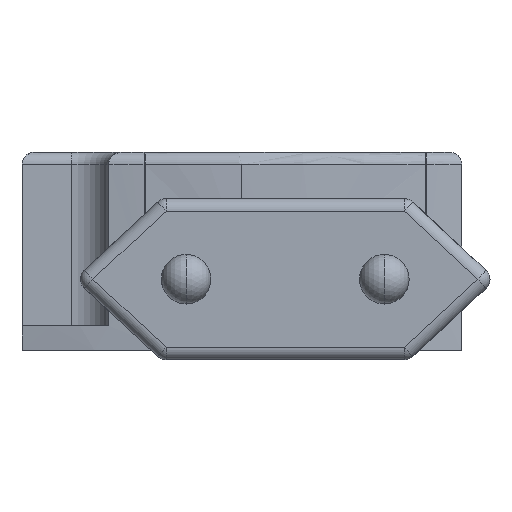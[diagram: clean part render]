
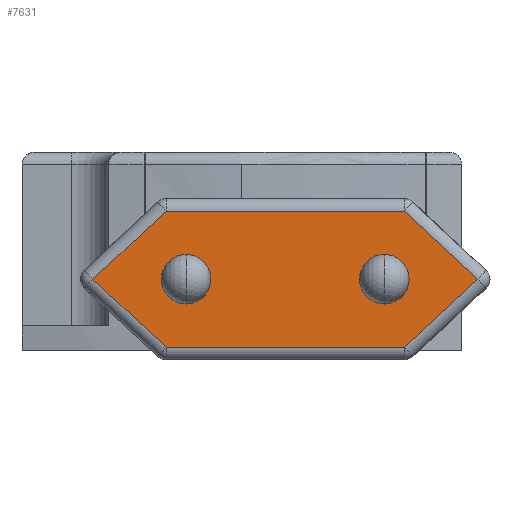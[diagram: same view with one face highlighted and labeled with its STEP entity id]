
A CAD part, left-side view. The second image highlights one B-rep face of the part: STEP entity #7631.
In plain terms, the highlighted planar face has unit normal (-1, 0, 0) as drawn and (0, 0, 1) by its records, which use the part's own axes.
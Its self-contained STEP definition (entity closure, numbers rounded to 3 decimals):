
#653 = CARTESIAN_POINT ( 'NONE',  ( 5.5, 10., 68.5 ) ) ;
#671 = VERTEX_POINT ( 'NONE', #3274 ) ;
#982 = DIRECTION ( 'NONE',  ( 0., -1., 0. ) ) ;
#991 = CARTESIAN_POINT ( 'NONE',  ( 0., -8., 68.5 ) ) ;
#1154 = DIRECTION ( 'NONE',  ( -1., 0., 0. ) ) ;
#1273 = VECTOR ( 'NONE', #13786, 1000. ) ;
#1400 = ORIENTED_EDGE ( 'NONE', *, *, #2611, .T. ) ;
#1629 = CIRCLE ( 'NONE', #9842, 1.9 ) ;
#1753 = VERTEX_POINT ( 'NONE', #10649 ) ;
#2042 = CARTESIAN_POINT ( 'NONE',  ( -5.5, -9.607, 68.5 ) ) ;
#2137 = ORIENTED_EDGE ( 'NONE', *, *, #16054, .T. ) ;
#2327 = EDGE_LOOP ( 'NONE', ( #6097, #2137, #13941, #1400, #15668, #7497 ) ) ;
#2611 = EDGE_CURVE ( 'NONE', #671, #3371, #5809, .T. ) ;
#2612 = EDGE_CURVE ( 'NONE', #4024, #671, #9753, .T. ) ;
#3274 = CARTESIAN_POINT ( 'NONE',  ( 0., 15.53, 68.5 ) ) ;
#3371 = VERTEX_POINT ( 'NONE', #9859 ) ;
#3746 = FACE_BOUND ( 'NONE', #13010, .T. ) ;
#4024 = VERTEX_POINT ( 'NONE', #11711 ) ;
#4367 = DIRECTION ( 'NONE',  ( 0., 1., 0. ) ) ;
#4478 = DIRECTION ( 'NONE',  ( 0.68, 0.733, 0. ) ) ;
#4573 = CARTESIAN_POINT ( 'NONE',  ( 0.733, -16.32, 68.5 ) ) ;
#5231 = CARTESIAN_POINT ( 'NONE',  ( 0., -15.53, 68.5 ) ) ;
#5809 = LINE ( 'NONE', #9834, #16793 ) ;
#5839 = VERTEX_POINT ( 'NONE', #5231 ) ;
#5888 = LINE ( 'NONE', #653, #15801 ) ;
#6026 = EDGE_CURVE ( 'NONE', #6589, #6448, #13909, .T. ) ;
#6097 = ORIENTED_EDGE ( 'NONE', *, *, #11942, .T. ) ;
#6125 = FACE_OUTER_BOUND ( 'NONE', #2327, .T. ) ;
#6448 = VERTEX_POINT ( 'NONE', #7584 ) ;
#6539 = AXIS2_PLACEMENT_3D ( 'NONE', #8385, #14706, #13592 ) ;
#6589 = VERTEX_POINT ( 'NONE', #16279 ) ;
#6793 = EDGE_CURVE ( 'NONE', #13798, #1753, #1629, .T. ) ;
#6797 = ORIENTED_EDGE ( 'NONE', *, *, #6026, .F. ) ;
#7010 = CARTESIAN_POINT ( 'NONE',  ( -0.733, 16.32, 68.5 ) ) ;
#7335 = FACE_BOUND ( 'NONE', #15172, .T. ) ;
#7497 = ORIENTED_EDGE ( 'NONE', *, *, #12312, .T. ) ;
#7543 = DIRECTION ( 'NONE',  ( 0., 0., 1. ) ) ;
#7558 = AXIS2_PLACEMENT_3D ( 'NONE', #991, #12871, #1154 ) ;
#7569 = CARTESIAN_POINT ( 'NONE',  ( 0., 8., 68.5 ) ) ;
#7584 = CARTESIAN_POINT ( 'NONE',  ( 1.9, 8., 68.5 ) ) ;
#7631 = ADVANCED_FACE ( 'NONE', ( #6125, #3746, #7335 ), #11347, .T. ) ;
#7650 = EDGE_CURVE ( 'NONE', #1753, #13798, #9198, .T. ) ;
#7968 = CARTESIAN_POINT ( 'NONE',  ( 1.9, -8., 68.5 ) ) ;
#8385 = CARTESIAN_POINT ( 'NONE',  ( 0., 8., 68.5 ) ) ;
#8951 = DIRECTION ( 'NONE',  ( 0., 0., 1. ) ) ;
#9198 = CIRCLE ( 'NONE', #7558, 1.9 ) ;
#9683 = LINE ( 'NONE', #10893, #14908 ) ;
#9753 = LINE ( 'NONE', #7010, #11867 ) ;
#9834 = CARTESIAN_POINT ( 'NONE',  ( -5.767, 9.32, 68.5 ) ) ;
#9842 = AXIS2_PLACEMENT_3D ( 'NONE', #15499, #7543, #10276 ) ;
#9859 = CARTESIAN_POINT ( 'NONE',  ( -5.5, 9.607, 68.5 ) ) ;
#9865 = LINE ( 'NONE', #4573, #1273 ) ;
#9970 = CARTESIAN_POINT ( 'NONE',  ( -5.5, -10., 68.5 ) ) ;
#10049 = AXIS2_PLACEMENT_3D ( 'NONE', #7569, #12681, #10207 ) ;
#10067 = DIRECTION ( 'NONE',  ( 1., 0., 0. ) ) ;
#10139 = EDGE_CURVE ( 'NONE', #3371, #11300, #10311, .T. ) ;
#10207 = DIRECTION ( 'NONE',  ( 1., 0., 0. ) ) ;
#10276 = DIRECTION ( 'NONE',  ( -1., 0., 0. ) ) ;
#10311 = LINE ( 'NONE', #9970, #15953 ) ;
#10649 = CARTESIAN_POINT ( 'NONE',  ( -1.9, -8., 68.5 ) ) ;
#10893 = CARTESIAN_POINT ( 'NONE',  ( 5.767, -9.32, 68.5 ) ) ;
#11300 = VERTEX_POINT ( 'NONE', #2042 ) ;
#11347 = PLANE ( 'NONE',  #15465 ) ;
#11535 = ORIENTED_EDGE ( 'NONE', *, *, #15701, .F. ) ;
#11711 = CARTESIAN_POINT ( 'NONE',  ( 5.5, 9.607, 68.5 ) ) ;
#11867 = VECTOR ( 'NONE', #16339, 1000. ) ;
#11942 = EDGE_CURVE ( 'NONE', #5839, #15547, #9683, .T. ) ;
#12312 = EDGE_CURVE ( 'NONE', #11300, #5839, #9865, .T. ) ;
#12681 = DIRECTION ( 'NONE',  ( 0., 0., 1. ) ) ;
#12715 = CARTESIAN_POINT ( 'NONE',  ( 5.5, -9.607, 68.5 ) ) ;
#12871 = DIRECTION ( 'NONE',  ( 0., 0., 1. ) ) ;
#12884 = ORIENTED_EDGE ( 'NONE', *, *, #7650, .F. ) ;
#13010 = EDGE_LOOP ( 'NONE', ( #6797, #11535 ) ) ;
#13037 = CIRCLE ( 'NONE', #10049, 1.9 ) ;
#13592 = DIRECTION ( 'NONE',  ( 1., 0., 0. ) ) ;
#13670 = DIRECTION ( 'NONE',  ( -0.68, -0.733, 0. ) ) ;
#13786 = DIRECTION ( 'NONE',  ( 0.68, -0.733, 0. ) ) ;
#13798 = VERTEX_POINT ( 'NONE', #7968 ) ;
#13909 = CIRCLE ( 'NONE', #6539, 1.9 ) ;
#13941 = ORIENTED_EDGE ( 'NONE', *, *, #2612, .T. ) ;
#14145 = ORIENTED_EDGE ( 'NONE', *, *, #6793, .F. ) ;
#14706 = DIRECTION ( 'NONE',  ( 0., 0., 1. ) ) ;
#14908 = VECTOR ( 'NONE', #4478, 1000. ) ;
#15172 = EDGE_LOOP ( 'NONE', ( #12884, #14145 ) ) ;
#15465 = AXIS2_PLACEMENT_3D ( 'NONE', #16572, #8951, #10067 ) ;
#15499 = CARTESIAN_POINT ( 'NONE',  ( 0., -8., 68.5 ) ) ;
#15547 = VERTEX_POINT ( 'NONE', #12715 ) ;
#15668 = ORIENTED_EDGE ( 'NONE', *, *, #10139, .T. ) ;
#15701 = EDGE_CURVE ( 'NONE', #6448, #6589, #13037, .T. ) ;
#15801 = VECTOR ( 'NONE', #4367, 1000. ) ;
#15953 = VECTOR ( 'NONE', #982, 1000. ) ;
#16054 = EDGE_CURVE ( 'NONE', #15547, #4024, #5888, .T. ) ;
#16279 = CARTESIAN_POINT ( 'NONE',  ( -1.9, 8., 68.5 ) ) ;
#16339 = DIRECTION ( 'NONE',  ( -0.68, 0.733, 0. ) ) ;
#16572 = CARTESIAN_POINT ( 'NONE',  ( -15.786, 0., 68.5 ) ) ;
#16793 = VECTOR ( 'NONE', #13670, 1000. ) ;
